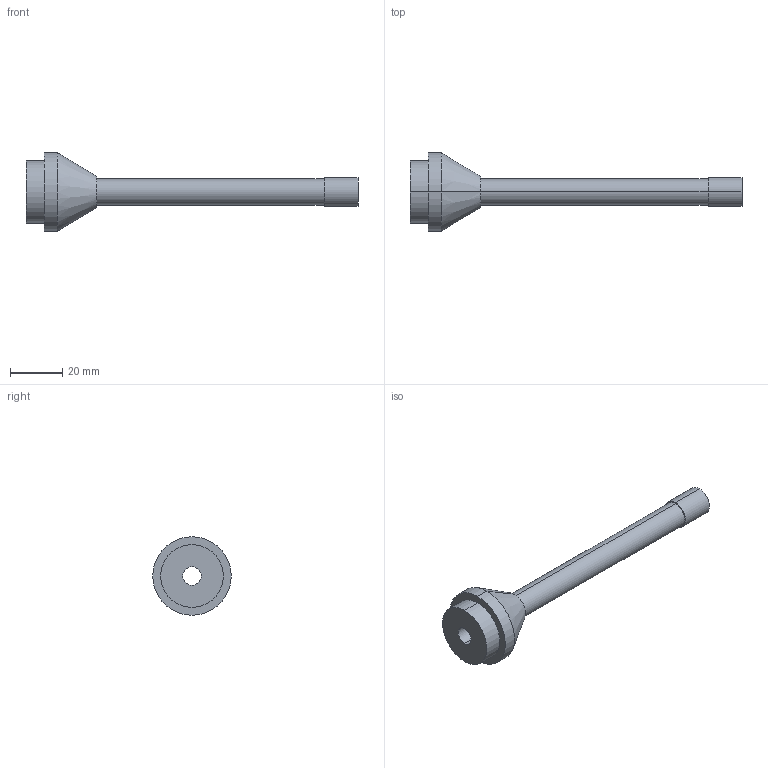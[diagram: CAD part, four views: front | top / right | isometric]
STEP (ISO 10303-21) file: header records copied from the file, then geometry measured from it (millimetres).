
FILE_DESCRIPTION (( 'STEP AP203' ), '1' );
FILE_NAME ('ER-AD10.STEP', '2005-09-05T07:13:22', ( '' ), ( '' ), 'SwSTEP 2.0', 'SolidWorks 2004073', '' );
FILE_SCHEMA (( 'CONFIG_CONTROL_DESIGN' ));
Length unit declared in the file: millimetre
Products named in the file (1): ER-AD10
Bounding box: 127 x 30 x 30 mm (x, y, z)
Volume: 15395.4 mm3; surface area: 8904.4 mm2
Topology: 1 solids, 1 shells, 17 faces, 34 edges, 22 vertices
Faces by surface type: cylinder 10, plane 5, cone 2
Entity records: 535 total; most frequent: DIRECTION 92, CARTESIAN_POINT 74, ORIENTED_EDGE 68, AXIS2_PLACEMENT_3D 40, EDGE_CURVE 34, VERTEX_POINT 22, EDGE_LOOP 22, CIRCLE 22
